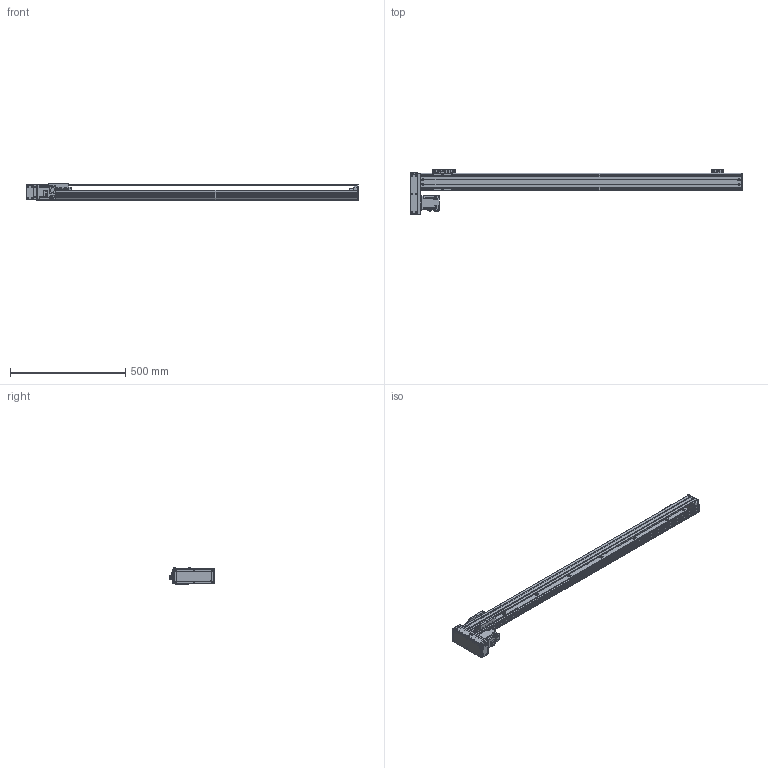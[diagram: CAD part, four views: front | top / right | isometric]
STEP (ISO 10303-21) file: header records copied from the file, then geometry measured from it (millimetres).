
FILE_DESCRIPTION(/* description */ (''),/* implementation_level */ '2;1');
FILE_NAME(/* name */ '\\192.168.0.160\disk1\HAN SHIN Master\B-설계부문\C-표준\B-2024년\BC02-표준도면\+로봇 개선표준도면\홈페이지 표준 도면\홈페이지 최종 작업 폴더\3D\HR\HR75\HR75병렬\우병렬\HR75-R20-N1B-1200-L10.stp',/* time_stamp */ '2025-01-18T16:44:43+09:00',/* author */ ('user'),/* organization */ (''),/* preprocessor_version */ 'ST-DEVELOPER v18.1',/* originating_system */ 'Autodesk Inventor 2022',/* authorisation */ '');
FILE_SCHEMA (('CONFIG_CONTROL_DESIGN'));
Products named in the file (23): HG75-L20-N1B-0500-R10 - 간소화; BASE; HR75 FRONT BLOCK; HR75 REAR COVER-TENTION; HR75 TENSION REAR BLOCK; HG3UPCOV001; H 15F_BLOCK; HG90STOPPER - 20L; HG90STOPPER - 27L; MOTOR PLATE-200W(MITSUBISHI); 화살표; hg-kr23_; M-5HL-4; HR75 W TABLE; LMKE1520 NUT; HR75-LR-BELT COVER(200W); HR75-BELT COVER-COVER2; HR75-BELT COVER-COVER; HR65-BELT COVER-COVER3; HC75-LR-MOTOR PLATE(200W)-사출_MIR; HR65,75 SENSOR DOG; EE_SX674A; SENSOR BRK(EE-SX674A)
Assembly tree (28 placements, depth 2):
  HG75-L20-N1B-0500-R10 - 간소화
    BASE
    HR75 FRONT BLOCK
    HR75 REAR COVER-TENTION
    HR75 TENSION REAR BLOCK
    HG3UPCOV001
    H 15F_BLOCK
    HG90STOPPER - 20L
    HG90STOPPER - 27L
    MOTOR PLATE-200W(MITSUBISHI)
    화살표  x2
    hg-kr23_
    M-5HL-4
    HR75 W TABLE
    LMKE1520 NUT
    SENSOR BRK(EE-SX674A)  x3
    EE_SX674A  x3
    HR75-LR-BELT COVER(200W)
    HR75-BELT COVER-COVER2
    HR75-BELT COVER-COVER
    HR65-BELT COVER-COVER3  x2
    HC75-LR-MOTOR PLATE(200W)-사출_MIR
    HR65,75 SENSOR DOG
Bounding box: 1439 x 199 x 73 mm (x, y, z)
Volume: 2169256.2 mm3; surface area: 1000063.7 mm2
Topology: 28 solids, 28 shells, 2954 faces, 8135 edges, 5377 vertices
Faces by surface type: plane 2185, cylinder 654, cone 107, sphere 8
Full cylindrical faces by diameter (mm): 1.8 x1, 2 x4, 2.013 x2, 2.459 x16, 2.5 x2, 3 x8, 3.242 x68, 3.4 x20, 3.5 x6, 4.134 x50, 4.5 x22, 4.917 x5, 5 x31, 5.5 x34, 5.6 x8, 5.8 x4, 5.9 x8, 6 x4, 6.5 x1, 7 x1, 8 x1, 9.5 x30, 14 x1, 15 x3, 17 x1, 20 x1, 25 x2, 28 x1, 32 x2, 33.7 x1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
Entity records: 91014 total; most frequent: CARTESIAN_POINT 16122, ORIENTED_EDGE 15154, DIRECTION 14448, EDGE_CURVE 7577, LINE 6202, VECTOR 6202, VERTEX_POINT 5045, AXIS2_PLACEMENT_3D 4123
